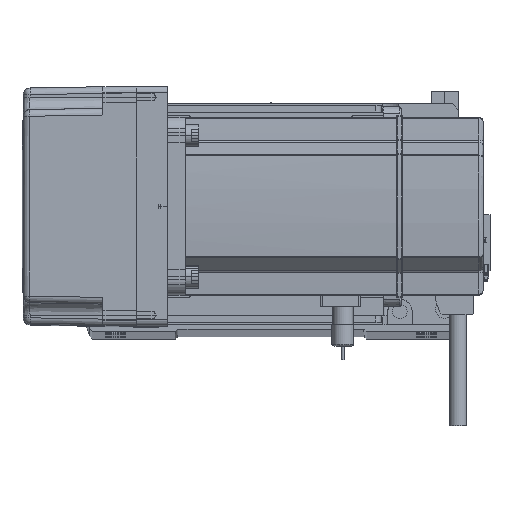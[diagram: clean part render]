
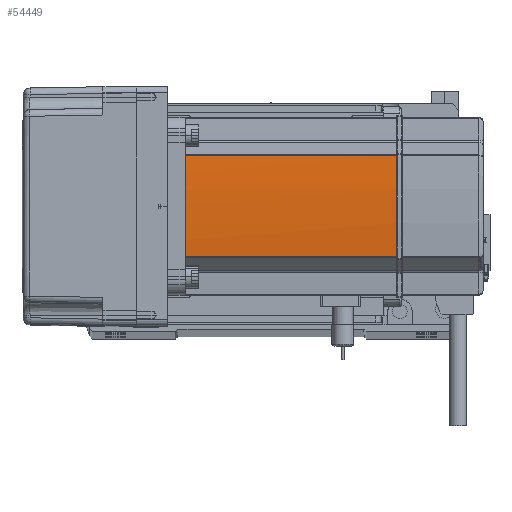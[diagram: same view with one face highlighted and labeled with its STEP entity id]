
A CAD part, top view. The second image highlights one B-rep face of the part: STEP entity #54449.
In plain terms, the highlighted cylindrical face has radius 270 mm (diameter 540 mm), a partial arc.
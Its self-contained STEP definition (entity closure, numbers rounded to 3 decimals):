
#968 = DIRECTION ( 'NONE',  ( 0., 0., -1. ) ) ;
#1618 = CARTESIAN_POINT ( 'NONE',  ( 39.042, 22.724, 58. ) ) ;
#1962 = ORIENTED_EDGE ( 'NONE', *, *, #44777, .T. ) ;
#2172 = VECTOR ( 'NONE', #20840, 1000. ) ;
#3858 = ORIENTED_EDGE ( 'NONE', *, *, #54524, .T. ) ;
#4645 = CYLINDRICAL_SURFACE ( 'NONE', #60773, 270. ) ;
#5351 = ORIENTED_EDGE ( 'NONE', *, *, #14460, .F. ) ;
#6179 = CARTESIAN_POINT ( 'NONE',  ( 40., -0.127, 134. ) ) ;
#6662 = CARTESIAN_POINT ( 'NONE',  ( 40., 0.127, 134. ) ) ;
#6884 = LINE ( 'NONE', #52559, #14348 ) ;
#7334 = CARTESIAN_POINT ( 'NONE',  ( -230., 0., 134. ) ) ;
#8063 = VERTEX_POINT ( 'NONE', #57164 ) ;
#8278 = DIRECTION ( 'NONE',  ( 0., 0., -1. ) ) ;
#10019 = EDGE_CURVE ( 'NONE', #13133, #22993, #61195, .T. ) ;
#11942 = VERTEX_POINT ( 'NONE', #6662 ) ;
#13133 = VERTEX_POINT ( 'NONE', #55072 ) ;
#14085 = CARTESIAN_POINT ( 'NONE',  ( -230., 0., 39. ) ) ;
#14348 = VECTOR ( 'NONE', #968, 1000. ) ;
#14361 = FACE_OUTER_BOUND ( 'NONE', #46970, .T. ) ;
#14460 = EDGE_CURVE ( 'NONE', #13133, #38910, #34543, .T. ) ;
#20840 = DIRECTION ( 'NONE',  ( 0., 0., 1. ) ) ;
#22769 = CARTESIAN_POINT ( 'NONE',  ( 39.042, -22.724, 39. ) ) ;
#22993 = VERTEX_POINT ( 'NONE', #49004 ) ;
#23199 = CARTESIAN_POINT ( 'NONE',  ( 40., -0.127, 134. ) ) ;
#23396 = CARTESIAN_POINT ( 'NONE',  ( 40., 0.042, 134. ) ) ;
#25038 = EDGE_CURVE ( 'NONE', #28104, #11942, #29594, .T. ) ;
#26395 = CIRCLE ( 'NONE', #41145, 270. ) ;
#27458 = DIRECTION ( 'NONE',  ( -1., 0., 0. ) ) ;
#28104 = VERTEX_POINT ( 'NONE', #6179 ) ;
#29594 = B_SPLINE_CURVE_WITH_KNOTS ( 'NONE', 3,
 ( #23199, #37991, #23396, #42190 ),
 .UNSPECIFIED., .F., .F.,
 ( 4, 4 ),
 ( 0., 1. ),
 .UNSPECIFIED. ) ;
#30269 = CIRCLE ( 'NONE', #35307, 270. ) ;
#32645 = CARTESIAN_POINT ( 'NONE',  ( -230., 0., 58. ) ) ;
#34543 = CIRCLE ( 'NONE', #39456, 270. ) ;
#35307 = AXIS2_PLACEMENT_3D ( 'NONE', #7334, #54956, #45301 ) ;
#37991 = CARTESIAN_POINT ( 'NONE',  ( 40., -0.042, 134. ) ) ;
#38062 = EDGE_CURVE ( 'NONE', #8063, #38910, #6884, .T. ) ;
#38910 = VERTEX_POINT ( 'NONE', #22769 ) ;
#39456 = AXIS2_PLACEMENT_3D ( 'NONE', #14085, #56705, #56484 ) ;
#41145 = AXIS2_PLACEMENT_3D ( 'NONE', #61693, #52680, #61492 ) ;
#42190 = CARTESIAN_POINT ( 'NONE',  ( 40., 0.127, 134. ) ) ;
#44777 = EDGE_CURVE ( 'NONE', #22993, #11942, #30269, .T. ) ;
#45301 = DIRECTION ( 'NONE',  ( -1., 0., 0. ) ) ;
#46970 = EDGE_LOOP ( 'NONE', ( #55983, #5351, #57285, #1962, #55097, #3858 ) ) ;
#49004 = CARTESIAN_POINT ( 'NONE',  ( 39.042, 22.724, 134. ) ) ;
#52559 = CARTESIAN_POINT ( 'NONE',  ( 39.042, -22.724, 58. ) ) ;
#52680 = DIRECTION ( 'NONE',  ( 0., 0., -1. ) ) ;
#54449 = ADVANCED_FACE ( 'NONE', ( #14361 ), #4645, .T. ) ;
#54524 = EDGE_CURVE ( 'NONE', #28104, #8063, #26395, .T. ) ;
#54956 = DIRECTION ( 'NONE',  ( 0., 0., -1. ) ) ;
#55072 = CARTESIAN_POINT ( 'NONE',  ( 39.042, 22.724, 39. ) ) ;
#55097 = ORIENTED_EDGE ( 'NONE', *, *, #25038, .F. ) ;
#55983 = ORIENTED_EDGE ( 'NONE', *, *, #38062, .T. ) ;
#56484 = DIRECTION ( 'NONE',  ( -1., 0., 0. ) ) ;
#56705 = DIRECTION ( 'NONE',  ( 0., 0., -1. ) ) ;
#57164 = CARTESIAN_POINT ( 'NONE',  ( 39.042, -22.724, 134. ) ) ;
#57285 = ORIENTED_EDGE ( 'NONE', *, *, #10019, .T. ) ;
#60773 = AXIS2_PLACEMENT_3D ( 'NONE', #32645, #8278, #27458 ) ;
#61195 = LINE ( 'NONE', #1618, #2172 ) ;
#61492 = DIRECTION ( 'NONE',  ( -1., 0., 0. ) ) ;
#61693 = CARTESIAN_POINT ( 'NONE',  ( -230., 0., 134. ) ) ;
